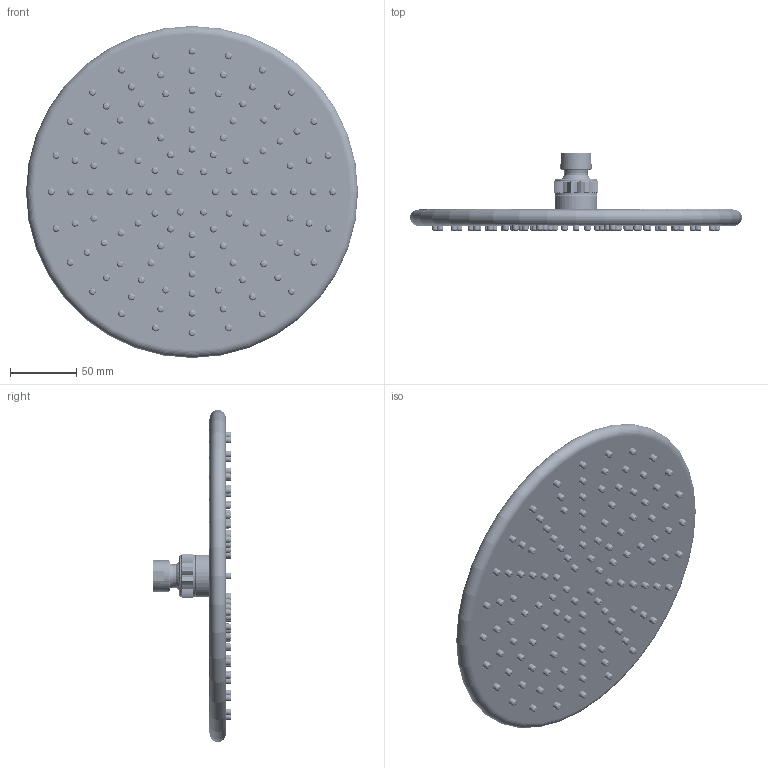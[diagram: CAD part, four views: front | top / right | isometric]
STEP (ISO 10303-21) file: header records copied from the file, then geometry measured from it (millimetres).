
FILE_DESCRIPTION((''),'2;1');
FILE_NAME('76663--00_ASM','2022-06-14T08:20:33',('sosm1'),(''),'CREO PARAMETRIC BY PTC INC, 2018190','CREO PARAMETRIC BY PTC INC, 2018190','');
FILE_SCHEMA(('CONFIG_CONTROL_DESIGN'));
Length unit declared in the file: millimetre
Products named in the file (20): 76663_POS1; 76663_POS2; 76663_SUB02_ASM; 76663_POS3; 76663_POS4; 76663_POS14; 76663_SUB05_ASM; 76663_POS5; 76663_POS6; 76663_POS7; 76663_POS9; 76663_POS8; 76663_POS10; 76663_POS11; 76663_POS12; 76663_POS13; 76663_SUB04_ASM; 76663_SUB03_ASM; 76663_SUB01_ASM; 76663--00_ASM
Assembly tree (72 placements, depth 5):
  76663--00_ASM
    76663_SUB01_ASM
      76663_SUB02_ASM
        76663_POS1
        76663_POS2  x19
      76663_POS3
      76663_SUB05_ASM
        76663_POS4
        76663_POS14
      76663_POS5  x18
      76663_POS6  x19
      76663_POS7
      76663_POS9
      76663_SUB03_ASM
        76663_POS8
        76663_POS10
        76663_POS11
        76663_SUB04_ASM
          76663_POS12
          76663_POS13
Bounding box: 250 x 58.9 x 250 mm (x, y, z)
Volume: 350627 mm3; surface area: 477108.1 mm2
Topology: 67 solids, 67 shells, 9483 faces, 25776 edges, 16814 vertices
Faces by surface type: plane 2520, cylinder 2501, cone 2304, torus 1095, bspline 672, sphere 275, extrusion 78, revolution 38
Entity records: 272375 total; most frequent: CARTESIAN_POINT 73942, DIRECTION 43697, ORIENTED_EDGE 41230, EDGE_CURVE 20615, AXIS2_PLACEMENT_3D 18381, VERTEX_POINT 13614, CIRCLE 10851, EDGE_LOOP 8851
